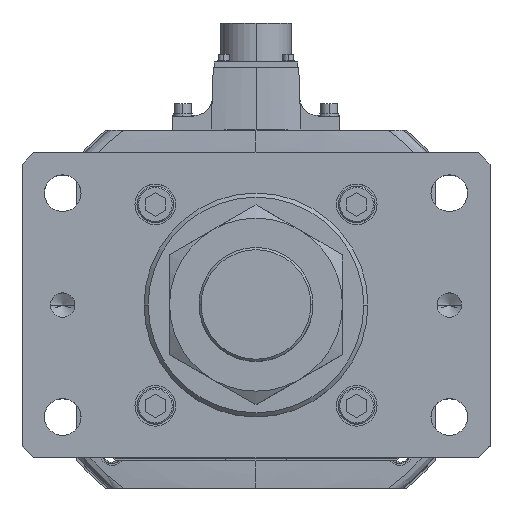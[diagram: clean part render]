
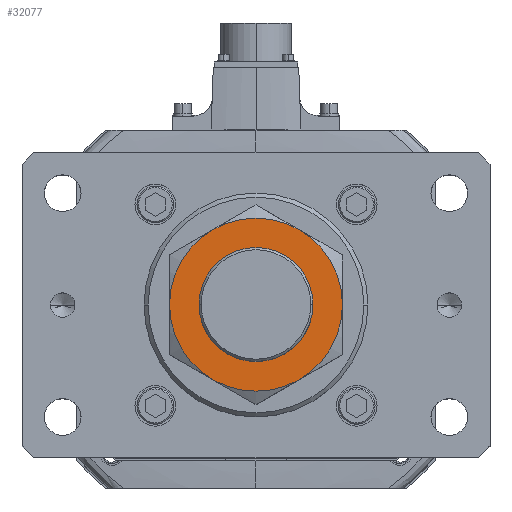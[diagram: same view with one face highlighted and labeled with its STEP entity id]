
A CAD part, top view. The second image highlights one B-rep face of the part: STEP entity #32077.
In plain terms, the highlighted planar face has unit normal (0, 0, 1).
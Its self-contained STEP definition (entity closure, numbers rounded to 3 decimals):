
#238 = CARTESIAN_POINT ( 'NONE',  ( 0., 0., 34. ) ) ;
#432 = DIRECTION ( 'NONE',  ( 1., 0., 0. ) ) ;
#583 = CIRCLE ( 'NONE', #23228, 42.5 ) ;
#900 = EDGE_CURVE ( 'NONE', #23755, #17213, #36441, .T. ) ;
#1748 = CARTESIAN_POINT ( 'NONE',  ( 0., 0., 34. ) ) ;
#2094 = DIRECTION ( 'NONE',  ( 1., 0., 0. ) ) ;
#2220 = CARTESIAN_POINT ( 'NONE',  ( 42.5, 0., 34. ) ) ;
#3567 = DIRECTION ( 'NONE',  ( 1., 0., 0. ) ) ;
#3760 = CARTESIAN_POINT ( 'NONE',  ( 0., 0., 34. ) ) ;
#3961 = CARTESIAN_POINT ( 'NONE',  ( 21.25, 36.806, 34. ) ) ;
#4547 = DIRECTION ( 'NONE',  ( 0., 0., -1. ) ) ;
#4652 = VERTEX_POINT ( 'NONE', #48807 ) ;
#4792 = DIRECTION ( 'NONE',  ( 1., 0., 0. ) ) ;
#4797 = AXIS2_PLACEMENT_3D ( 'NONE', #16122, #50473, #54753 ) ;
#8196 = CARTESIAN_POINT ( 'NONE',  ( 21.25, -36.806, 34. ) ) ;
#9020 = DIRECTION ( 'NONE',  ( 0., 0., -1. ) ) ;
#11202 = AXIS2_PLACEMENT_3D ( 'NONE', #30032, #9020, #432 ) ;
#12073 = DIRECTION ( 'NONE',  ( 0., 0., 1. ) ) ;
#12207 = ORIENTED_EDGE ( 'NONE', *, *, #19899, .F. ) ;
#12339 = DIRECTION ( 'NONE',  ( 1., 0., 0. ) ) ;
#12928 = DIRECTION ( 'NONE',  ( 1., 0., 0. ) ) ;
#15130 = VERTEX_POINT ( 'NONE', #3961 ) ;
#15461 = EDGE_CURVE ( 'NONE', #17213, #32612, #30616, .T. ) ;
#15700 = VERTEX_POINT ( 'NONE', #8196 ) ;
#16122 = CARTESIAN_POINT ( 'NONE',  ( 0., 0., 34. ) ) ;
#16820 = CARTESIAN_POINT ( 'NONE',  ( -21.25, 36.806, 34. ) ) ;
#17165 = DIRECTION ( 'NONE',  ( 0., 0., -1. ) ) ;
#17213 = VERTEX_POINT ( 'NONE', #49413 ) ;
#17486 = AXIS2_PLACEMENT_3D ( 'NONE', #42146, #12073, #28986 ) ;
#18743 = AXIS2_PLACEMENT_3D ( 'NONE', #30293, #25841, #4792 ) ;
#18828 = ORIENTED_EDGE ( 'NONE', *, *, #15461, .F. ) ;
#19899 = EDGE_CURVE ( 'NONE', #15700, #23755, #583, .T. ) ;
#20303 = DIRECTION ( 'NONE',  ( -1., 0., 0. ) ) ;
#22036 = FACE_BOUND ( 'NONE', #34969, .T. ) ;
#22304 = VERTEX_POINT ( 'NONE', #2220 ) ;
#23228 = AXIS2_PLACEMENT_3D ( 'NONE', #3760, #17165, #12339 ) ;
#23755 = VERTEX_POINT ( 'NONE', #26555 ) ;
#24370 = ORIENTED_EDGE ( 'NONE', *, *, #41330, .F. ) ;
#24809 = EDGE_CURVE ( 'NONE', #15130, #22304, #27618, .T. ) ;
#25003 = CARTESIAN_POINT ( 'NONE',  ( 0., 0., 34. ) ) ;
#25841 = DIRECTION ( 'NONE',  ( 0., 0., 1. ) ) ;
#26030 = FACE_OUTER_BOUND ( 'NONE', #48305, .T. ) ;
#26555 = CARTESIAN_POINT ( 'NONE',  ( -21.25, -36.806, 34. ) ) ;
#27024 = EDGE_CURVE ( 'NONE', #22304, #15700, #32478, .T. ) ;
#27618 = CIRCLE ( 'NONE', #46519, 42.5 ) ;
#28986 = DIRECTION ( 'NONE',  ( 1., 0., 0. ) ) ;
#29884 = AXIS2_PLACEMENT_3D ( 'NONE', #1748, #48575, #2094 ) ;
#30032 = CARTESIAN_POINT ( 'NONE',  ( 0., 0., 34. ) ) ;
#30293 = CARTESIAN_POINT ( 'NONE',  ( 0., 0., 34. ) ) ;
#30616 = CIRCLE ( 'NONE', #43730, 42.5 ) ;
#30903 = CIRCLE ( 'NONE', #4797, 28. ) ;
#31709 = AXIS2_PLACEMENT_3D ( 'NONE', #25003, #45947, #3567 ) ;
#31840 = ORIENTED_EDGE ( 'NONE', *, *, #900, .F. ) ;
#32077 = ADVANCED_FACE ( 'NONE', ( #26030, #22036 ), #43088, .T. ) ;
#32478 = CIRCLE ( 'NONE', #29884, 42.5 ) ;
#32612 = VERTEX_POINT ( 'NONE', #16820 ) ;
#34969 = EDGE_LOOP ( 'NONE', ( #46843, #49345 ) ) ;
#36441 = CIRCLE ( 'NONE', #11202, 42.5 ) ;
#36500 = CARTESIAN_POINT ( 'NONE',  ( 0., 0., 34. ) ) ;
#40621 = ORIENTED_EDGE ( 'NONE', *, *, #24809, .F. ) ;
#41330 = EDGE_CURVE ( 'NONE', #32612, #15130, #47850, .T. ) ;
#41824 = CARTESIAN_POINT ( 'NONE',  ( 28., 0., 34. ) ) ;
#42146 = CARTESIAN_POINT ( 'NONE',  ( 0., 0., 34. ) ) ;
#43088 = PLANE ( 'NONE',  #18743 ) ;
#43430 = EDGE_CURVE ( 'NONE', #45765, #4652, #52344, .T. ) ;
#43730 = AXIS2_PLACEMENT_3D ( 'NONE', #36500, #45196, #20303 ) ;
#45196 = DIRECTION ( 'NONE',  ( 0., 0., -1. ) ) ;
#45765 = VERTEX_POINT ( 'NONE', #41824 ) ;
#45947 = DIRECTION ( 'NONE',  ( 0., 0., -1. ) ) ;
#46350 = EDGE_CURVE ( 'NONE', #4652, #45765, #30903, .T. ) ;
#46519 = AXIS2_PLACEMENT_3D ( 'NONE', #238, #4547, #12928 ) ;
#46843 = ORIENTED_EDGE ( 'NONE', *, *, #46350, .F. ) ;
#47850 = CIRCLE ( 'NONE', #31709, 42.5 ) ;
#48305 = EDGE_LOOP ( 'NONE', ( #52882, #40621, #24370, #18828, #31840, #12207 ) ) ;
#48575 = DIRECTION ( 'NONE',  ( 0., 0., -1. ) ) ;
#48807 = CARTESIAN_POINT ( 'NONE',  ( -28., 0., 34. ) ) ;
#49345 = ORIENTED_EDGE ( 'NONE', *, *, #43430, .F. ) ;
#49413 = CARTESIAN_POINT ( 'NONE',  ( -42.5, 0., 34. ) ) ;
#50473 = DIRECTION ( 'NONE',  ( 0., 0., 1. ) ) ;
#52344 = CIRCLE ( 'NONE', #17486, 28. ) ;
#52882 = ORIENTED_EDGE ( 'NONE', *, *, #27024, .F. ) ;
#54753 = DIRECTION ( 'NONE',  ( 1., 0., 0. ) ) ;
